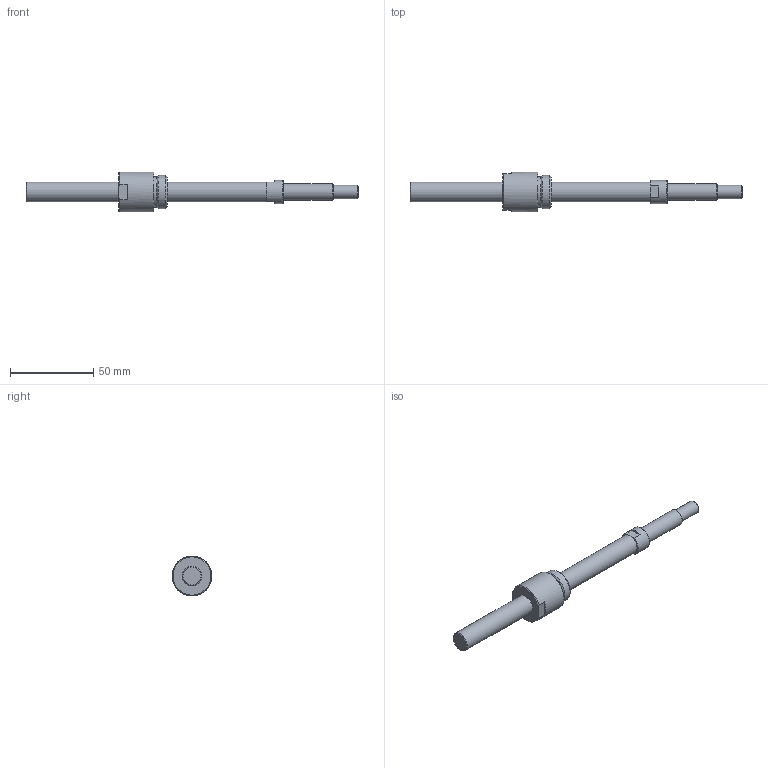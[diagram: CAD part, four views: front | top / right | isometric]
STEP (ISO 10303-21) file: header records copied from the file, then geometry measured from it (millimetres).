
FILE_DESCRIPTION(/* description */ ('STEP AP214'),/* implementation_level */ '2;1');
FILE_NAME(/* name */ 'NSG1204-141R200C5A0X(56)',/* time_stamp */ '2026-08-20T15:50:30+02:00',/* author */ ('License CC BY-ND 4.0'),/* organization */ ('CADENAS'),/* preprocessor_version */ 'ST-DEVELOPER v20',/* originating_system */ 'PARTsolutions',/* authorisation */ ' ');
FILE_SCHEMA (('AUTOMOTIVE_DESIGN {1 0 10303 214 3 1 1}'));
Length unit declared in the file: millimetre
Products named in the file (3): NSG1204-141R200C5A0X(56); NSG1204-141R200C3A_shaft; NSG1204_nut
Assembly tree (2 placements, depth 2):
  NSG1204-141R200C5A0X(56)
    NSG1204-141R200C3A_shaft
    NSG1204_nut
Bounding box: 200 x 24 x 24 mm (x, y, z)
Volume: 29508.7 mm3; surface area: 11336.9 mm2
Topology: 2 solids, 2 shells, 35 faces, 72 edges, 44 vertices
Faces by surface type: plane 17, cone 9, cylinder 8, torus 1
Full cylindrical faces by diameter (mm): 8 x1, 10 x1, 12 x2, 14 x1, 18.4 x1, 20 x1, 24 x1
Entity records: 907 total; most frequent: DIRECTION 158, CARTESIAN_POINT 146, ORIENTED_EDGE 108, AXIS2_PLACEMENT_3D 70, EDGE_LOOP 56, FACE_BOUND 56, EDGE_CURVE 54, VERTEX_POINT 42
